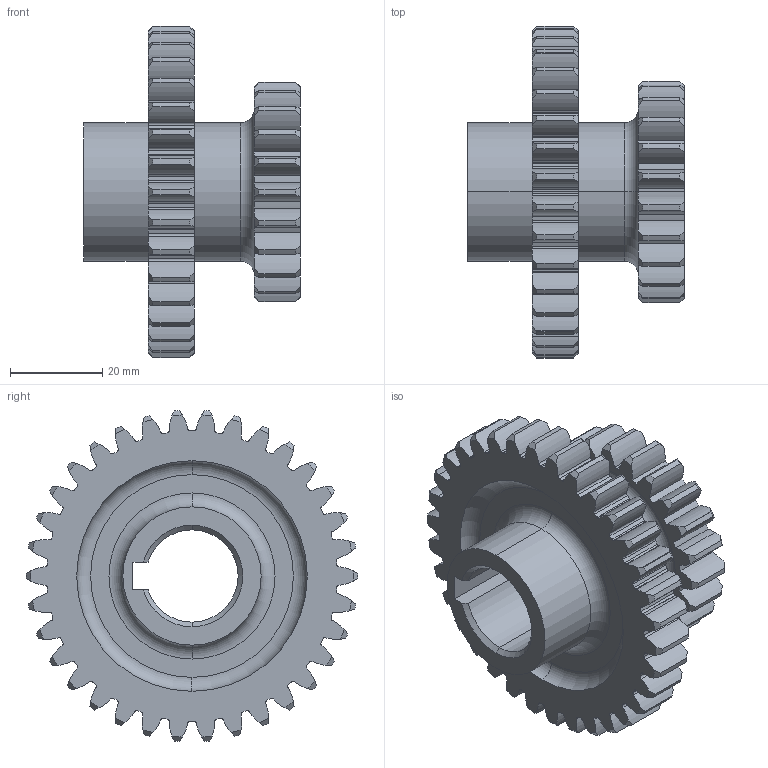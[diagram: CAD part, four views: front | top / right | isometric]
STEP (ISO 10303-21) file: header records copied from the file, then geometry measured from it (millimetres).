
FILE_DESCRIPTION (( 'STEP AP203' ), '1' );
FILE_NAME ('390628E1004-½ºÆÛ±â¾î.STEP', '2019-06-27T09:13:17', ( '55' ), ( '' ), 'SwSTEP 2.0', 'SolidWorks 2013', '' );
FILE_SCHEMA (( 'CONFIG_CONTROL_DESIGN' ));
Length unit declared in the file: millimetre
Products named in the file (1): 390628E1004-蝶ぷ晦橫
Bounding box: 47 x 72 x 71.79 mm (x, y, z)
Volume: 47892.7 mm3; surface area: 21282.9 mm2
Topology: 1 solids, 1 shells, 467 faces, 1370 edges, 910 vertices
Faces by surface type: cylinder 329, cone 118, torus 10, plane 10
Entity records: 16273 total; most frequent: CARTESIAN_POINT 3456, DIRECTION 2862, ORIENTED_EDGE 2740, EDGE_CURVE 1370, AXIS2_PLACEMENT_3D 1260, VERTEX_POINT 910, CIRCLE 792, EDGE_LOOP 474
